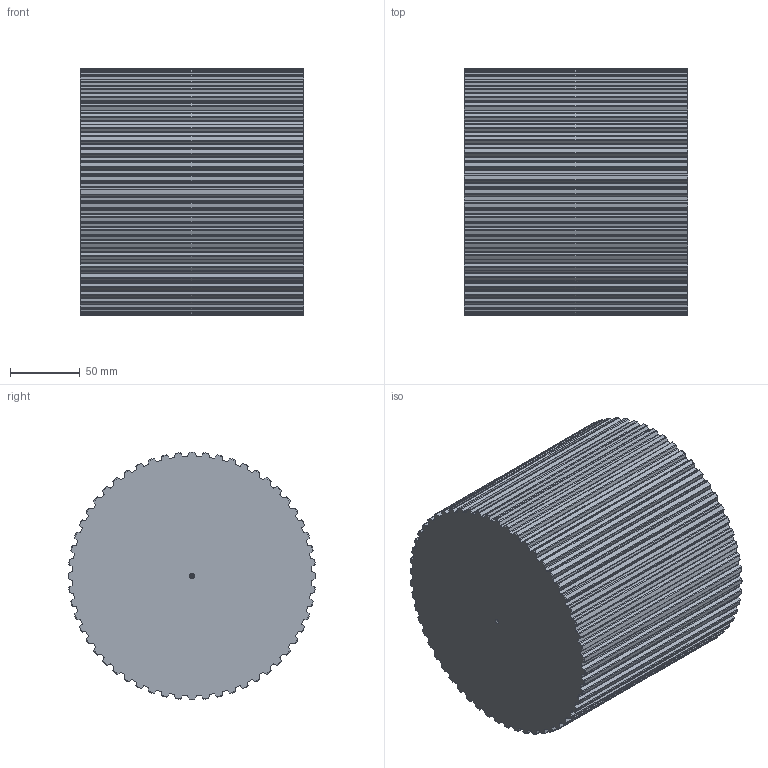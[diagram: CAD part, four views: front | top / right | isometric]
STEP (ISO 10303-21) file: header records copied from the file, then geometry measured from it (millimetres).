
FILE_DESCRIPTION(('STEP AP203'),'1');
FILE_NAME('barat_56.stp','2022-04-12T09:41:57',('TraceParts'),('TraceParts S.A.'),'Spatial InterOp 3D',' ',' ');
FILE_SCHEMA(('CONFIG_CONTROL_DESIGN'));
Length unit declared in the file: millimetre
Products named in the file (1): 1
Bounding box: 160 x 177.25 x 177.25 mm (x, y, z)
Volume: 3825172.8 mm3; surface area: 164576.9 mm2
Topology: 1 solids, 1 shells, 578 faces, 1720 edges, 1142 vertices
Faces by surface type: cylinder 340, cone 124, plane 114
Entity records: 20900 total; most frequent: CARTESIAN_POINT 5901, ORIENTED_EDGE 3432, DIRECTION 3006, EDGE_CURVE 1716, AXIS2_PLACEMENT_3D 1159, VERTEX_POINT 1142, LINE 688, VECTOR 688
